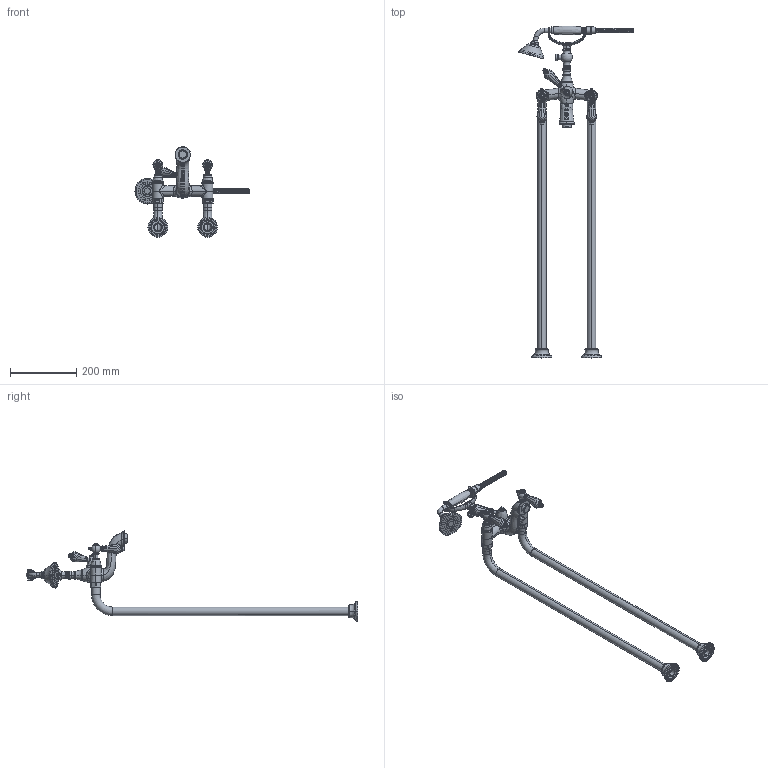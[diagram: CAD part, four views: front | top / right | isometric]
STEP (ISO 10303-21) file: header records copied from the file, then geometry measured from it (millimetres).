
FILE_DESCRIPTION((''),'2;1');
FILE_NAME('F5404_4C_FILE_3D','2013-08-05T',('ivanv'),(''),'PRO/ENGINEER BY PARAMETRIC TECHNOLOGY CORPORATION, 2012130','PRO/ENGINEER BY PARAMETRIC TECHNOLOGY CORPORATION, 2012130','');
FILE_SCHEMA(('CONFIG_CONTROL_DESIGN'));
Products named in the file (1): F5404_4C_FILE_3D
Bounding box: 344.19 x 1000.54 x 272.6 mm (x, y, z)
Volume: 962092.6 mm3; surface area: 465803.3 mm2
Topology: 12 solids, 18 shells, 3562 faces, 8723 edges, 5269 vertices
Faces by surface type: plane 1750, cylinder 933, cone 322, torus 308, bspline 221, sphere 28
Entity records: 153337 total; most frequent: CARTESIAN_POINT 71595, ORIENTED_EDGE 17382, DIRECTION 16680, EDGE_CURVE 8691, AXIS2_PLACEMENT_3D 6456, VERTEX_POINT 5269, EDGE_LOOP 3860, VECTOR 3768
